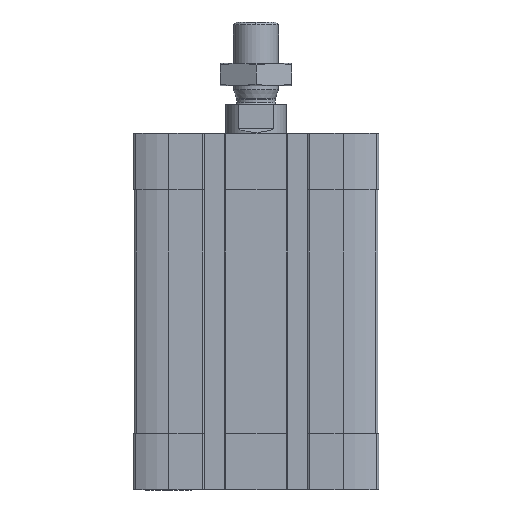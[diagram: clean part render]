
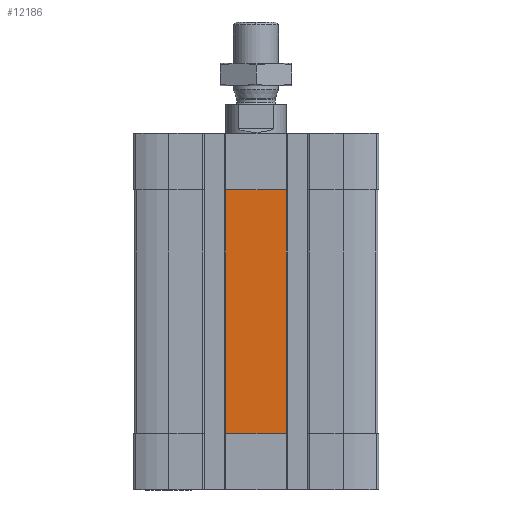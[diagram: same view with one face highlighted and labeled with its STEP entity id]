
A CAD part, front view. The second image highlights one B-rep face of the part: STEP entity #12186.
In plain terms, the highlighted planar face has unit normal (0, -1, 0).
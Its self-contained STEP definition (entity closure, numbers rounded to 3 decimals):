
#7 = FACE_OUTER_BOUND ( 'NONE', #10709, .T. ) ;
#63 = LINE ( 'NONE', #11463, #6441 ) ;
#1268 = CARTESIAN_POINT ( 'NONE',  ( 8., -32.5, -80. ) ) ;
#1795 = EDGE_CURVE ( 'NONE', #11268, #5739, #5547, .T. ) ;
#1921 = ORIENTED_EDGE ( 'NONE', *, *, #10278, .T. ) ;
#3549 = ORIENTED_EDGE ( 'NONE', *, *, #9071, .T. ) ;
#3698 = VERTEX_POINT ( 'NONE', #10967 ) ;
#3824 = DIRECTION ( 'NONE',  ( 0., -1., 0. ) ) ;
#5301 = DIRECTION ( 'NONE',  ( 0., 0., 1. ) ) ;
#5306 = EDGE_CURVE ( 'NONE', #3698, #11268, #13936, .T. ) ;
#5547 = LINE ( 'NONE', #8247, #14948 ) ;
#5584 = DIRECTION ( 'NONE',  ( -1., 0., 0. ) ) ;
#5739 = VERTEX_POINT ( 'NONE', #1268 ) ;
#6441 = VECTOR ( 'NONE', #5301, 1000. ) ;
#8247 = CARTESIAN_POINT ( 'NONE',  ( -8., -32.5, -80. ) ) ;
#8574 = DIRECTION ( 'NONE',  ( 1., 0., 0. ) ) ;
#9071 = EDGE_CURVE ( 'NONE', #15051, #3698, #13270, .T. ) ;
#9865 = AXIS2_PLACEMENT_3D ( 'NONE', #16076, #3824, #12513 ) ;
#9994 = VECTOR ( 'NONE', #5584, 1000. ) ;
#10278 = EDGE_CURVE ( 'NONE', #5739, #15051, #63, .T. ) ;
#10661 = VECTOR ( 'NONE', #11092, 1000. ) ;
#10709 = EDGE_LOOP ( 'NONE', ( #13193, #1921, #3549, #13201 ) ) ;
#10890 = CARTESIAN_POINT ( 'NONE',  ( -8., -32.5, -80. ) ) ;
#10967 = CARTESIAN_POINT ( 'NONE',  ( -8., -32.5, -15. ) ) ;
#11092 = DIRECTION ( 'NONE',  ( 0., 0., -1. ) ) ;
#11268 = VERTEX_POINT ( 'NONE', #14232 ) ;
#11275 = PLANE ( 'NONE',  #9865 ) ;
#11463 = CARTESIAN_POINT ( 'NONE',  ( 8., -32.5, -80. ) ) ;
#12186 = ADVANCED_FACE ( 'NONE', ( #7 ), #11275, .T. ) ;
#12513 = DIRECTION ( 'NONE',  ( 0., 0., -1. ) ) ;
#13193 = ORIENTED_EDGE ( 'NONE', *, *, #1795, .T. ) ;
#13201 = ORIENTED_EDGE ( 'NONE', *, *, #5306, .T. ) ;
#13270 = LINE ( 'NONE', #14196, #9994 ) ;
#13936 = LINE ( 'NONE', #10890, #10661 ) ;
#14196 = CARTESIAN_POINT ( 'NONE',  ( 0., -32.5, -15. ) ) ;
#14232 = CARTESIAN_POINT ( 'NONE',  ( -8., -32.5, -80. ) ) ;
#14602 = CARTESIAN_POINT ( 'NONE',  ( 8., -32.5, -15. ) ) ;
#14948 = VECTOR ( 'NONE', #8574, 1000. ) ;
#15051 = VERTEX_POINT ( 'NONE', #14602 ) ;
#16076 = CARTESIAN_POINT ( 'NONE',  ( -8., -32.5, -80. ) ) ;
